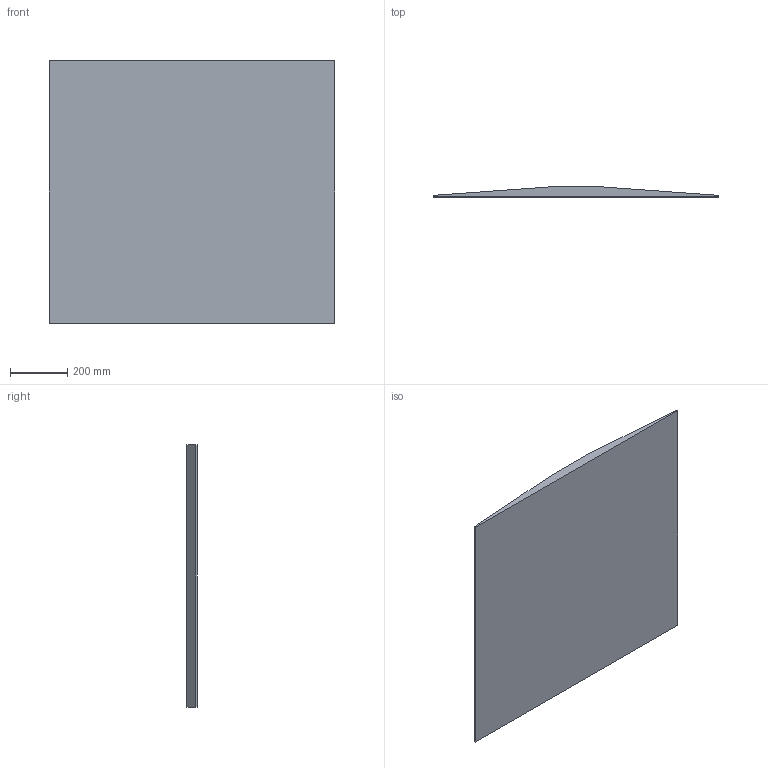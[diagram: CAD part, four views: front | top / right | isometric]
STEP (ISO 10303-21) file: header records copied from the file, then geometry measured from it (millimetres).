
FILE_DESCRIPTION (( 'STEP AP214' ), '1' );
FILE_NAME ('BL2-19-WR.STEP', '2024-09-21T23:36:36', ( '' ), ( '' ), 'SwSTEP 2.0', 'SolidWorks 2024', '' );
FILE_SCHEMA (( 'AUTOMOTIVE_DESIGN' ));
Length unit declared in the file: millimetre
Products named in the file (1): BL2-19-WR
Bounding box: 1000 x 35 x 920 mm (x, y, z)
Volume: 20671351.7 mm3; surface area: 1913051.7 mm2
Topology: 1 solids, 1 shells, 111 faces, 288 edges, 192 vertices
Faces by surface type: plane 84, bspline 27
Entity records: 4855 total; most frequent: CARTESIAN_POINT 2291, ORIENTED_EDGE 576, DIRECTION 404, EDGE_CURVE 288, VECTOR 234, LINE 234, VERTEX_POINT 192, EDGE_LOOP 124
